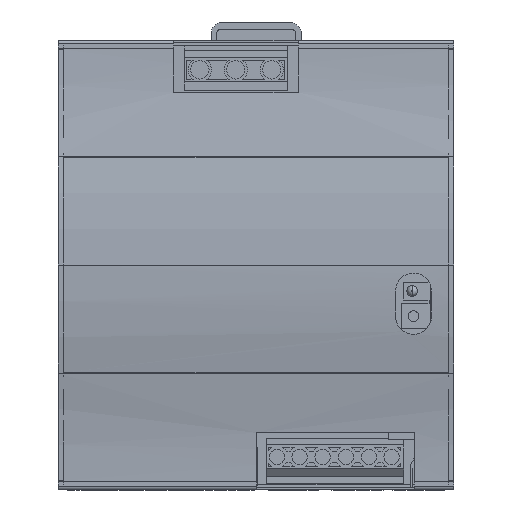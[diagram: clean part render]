
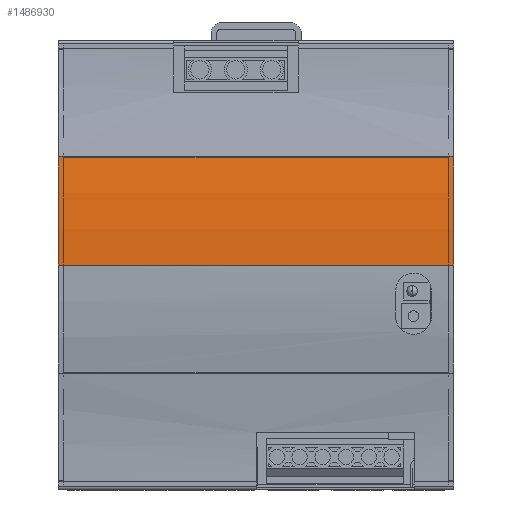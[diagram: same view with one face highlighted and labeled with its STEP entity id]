
A CAD part, left-side view. The second image highlights one B-rep face of the part: STEP entity #1486930.
In plain terms, the highlighted cylindrical face has radius 150.5 mm (diameter 301 mm), a partial arc.
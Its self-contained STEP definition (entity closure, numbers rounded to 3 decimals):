
#470290=CARTESIAN_POINT('',(121.153,13.236,
12.));
#470300=DIRECTION('',(0.,-1.,0.));
#470310=DIRECTION('',(-1.,0.,0.));
#470320=AXIS2_PLACEMENT_3D('',#470290,#470300,#470310);
#470330=CIRCLE('',#470320,150.5);
#470340=CARTESIAN_POINT('',(-29.347,13.236,
12.));
#470350=VERTEX_POINT('',#470340);
#470380=CARTESIAN_POINT('',(-26.304,13.236,
42.11));
#470390=VERTEX_POINT('',#470380);
#470400=EDGE_CURVE('',#470390,#470350,#470330,.T.);
#486290=CARTESIAN_POINT('',(-26.304,123.236,
42.11));
#486300=VERTEX_POINT('',#486290);
#486330=CARTESIAN_POINT('',(121.153,123.236,12.
));
#486340=DIRECTION('',(0.,-1.,0.));
#486350=DIRECTION('',(-1.,0.,0.));
#486360=AXIS2_PLACEMENT_3D('',#486330,#486340,#486350);
#486370=CIRCLE('',#486360,150.5);
#486380=CARTESIAN_POINT('',(-29.347,123.236,
12.));
#486390=VERTEX_POINT('',#486380);
#486400=EDGE_CURVE('',#486300,#486390,#486370,.T.);
#1486720=CARTESIAN_POINT('',(121.153,19.986,
12.));
#1486730=DIRECTION('',(0.,-1.,0.));
#1486740=DIRECTION('',(-1.,0.,0.))
;
#1486750=AXIS2_PLACEMENT_3D('',#1486720,#1486730,#1486740);
#1486760=CYLINDRICAL_SURFACE('',#1486750,150.5);
#1486770=ORIENTED_EDGE('',*,*,#470400,.F.);
#1486780=CARTESIAN_POINT('',(-29.347,19.986,
12.));
#1486790=DIRECTION('',(0.,-1.,0.));
#1486800=VECTOR('',#1486790,1.);
#1486810=LINE('',#1486780,#1486800);
#1486820=EDGE_CURVE('',#486390,#470350,#1486810,.T.);
#1486830=ORIENTED_EDGE('',*,*,#1486820,.T.);
#1486840=ORIENTED_EDGE('',*,*,#486400,.T.);
#1486850=CARTESIAN_POINT('',(-26.304,19.986,
42.11));
#1486860=DIRECTION('',(0.,1.,0.));
#1486870=VECTOR('',#1486860,1.);
#1486880=LINE('',#1486850,#1486870);
#1486890=EDGE_CURVE('',#470390,#486300,#1486880,.T.);
#1486900=ORIENTED_EDGE('',*,*,#1486890,.T.);
#1486910=EDGE_LOOP('',(#1486900,#1486840,#1486830,#1486770));
#1486920=FACE_OUTER_BOUND('',#1486910,.T.);
#1486930=ADVANCED_FACE('',(#1486920),#1486760,.T.);
